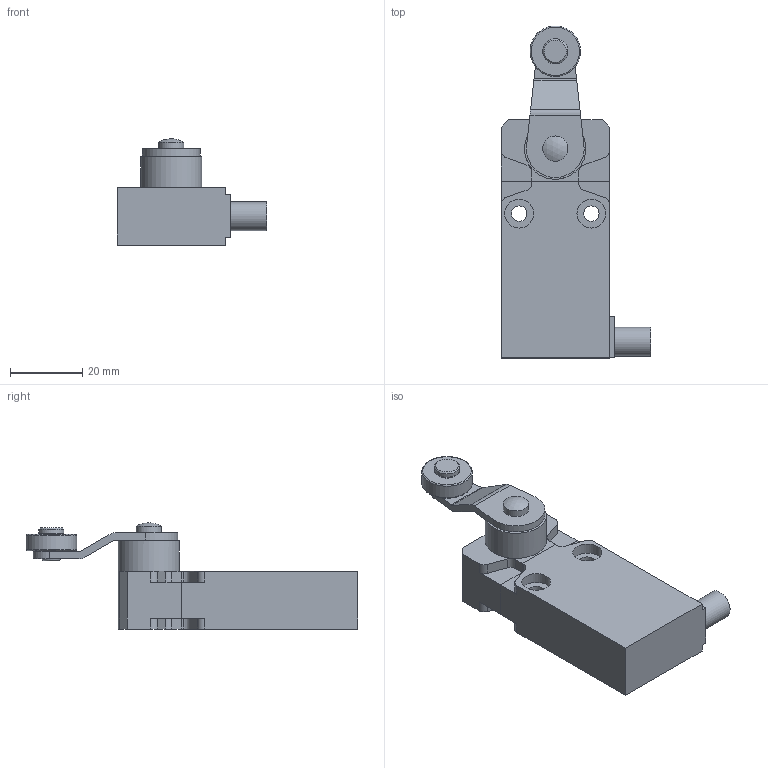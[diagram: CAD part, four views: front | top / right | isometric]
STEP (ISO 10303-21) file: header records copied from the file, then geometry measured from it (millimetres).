
FILE_DESCRIPTION((''),'2;1');
FILE_NAME('C:\Workarea\Disegni\Comepi\Catalogo\Stp\Finecorsa\EM1G41.iam.step','2011-07-22T16:16:39',(''),(''),'Autodesk Inventor 2012','Autodesk Inventor 2012','');
FILE_SCHEMA(('AUTOMOTIVE_DESIGN { 1 0 10303 214 1 1 1 1 }'));
Length unit declared in the file: millimetre
Products named in the file (5): EM1G41; EM1; G41; G41_1; G41_2
Assembly tree (4 placements, depth 3):
  EM1G41
    EM1
    G41
      G41_1
      G41_2
Bounding box: 41.5 x 92 x 29.46 mm (x, y, z)
Volume: 34469.9 mm3; surface area: 11022 mm2
Topology: 3 solids, 3 shells, 112 faces, 267 edges, 176 vertices
Faces by surface type: plane 64, cylinder 35, torus 7, cone 3, sphere 3
Full cylindrical faces by diameter (mm): 4.3 x2, 5 x2, 7 x2, 8 x5, 14 x1, 17 x1
Entity records: 3280 total; most frequent: DIRECTION 572, CARTESIAN_POINT 541, ORIENTED_EDGE 488, EDGE_CURVE 244, AXIS2_PLACEMENT_3D 207, VERTEX_POINT 176, VECTOR 158, LINE 158
